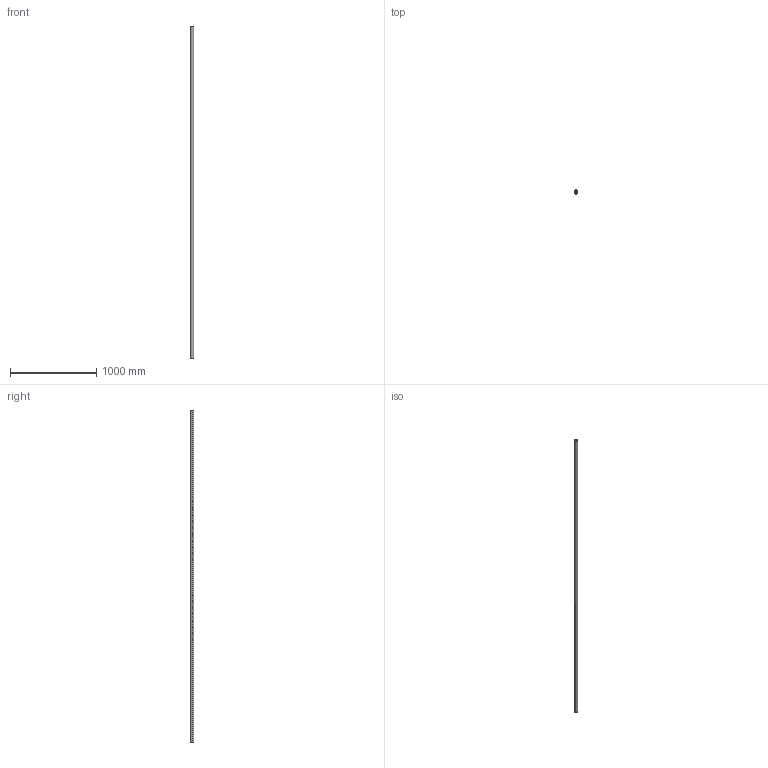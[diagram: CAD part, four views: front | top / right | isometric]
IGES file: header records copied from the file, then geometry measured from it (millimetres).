
Start section: SolidWorks IGES file using analytic representation for surfaces
Global section: file name: C:\Users\IanO\Desktop\L1771_v2\L1771.40_v2\L1771.40_v2_20230705_IGES\L1771.40-3850.igs; native system: SolidWorks 2019; preprocessor: SolidWorks 2019; author: IanO; date: 230705.162137; units: millimetre
Bounding box: 40 x 40 x 3850 mm (x, y, z)
Surface area: 823750.7 mm2 (no closed solid volume)
Topology: 0 solids, 0 shells, 6 faces, 272 edges, 272 vertices
Faces by surface type: revolution 4, bspline 2
